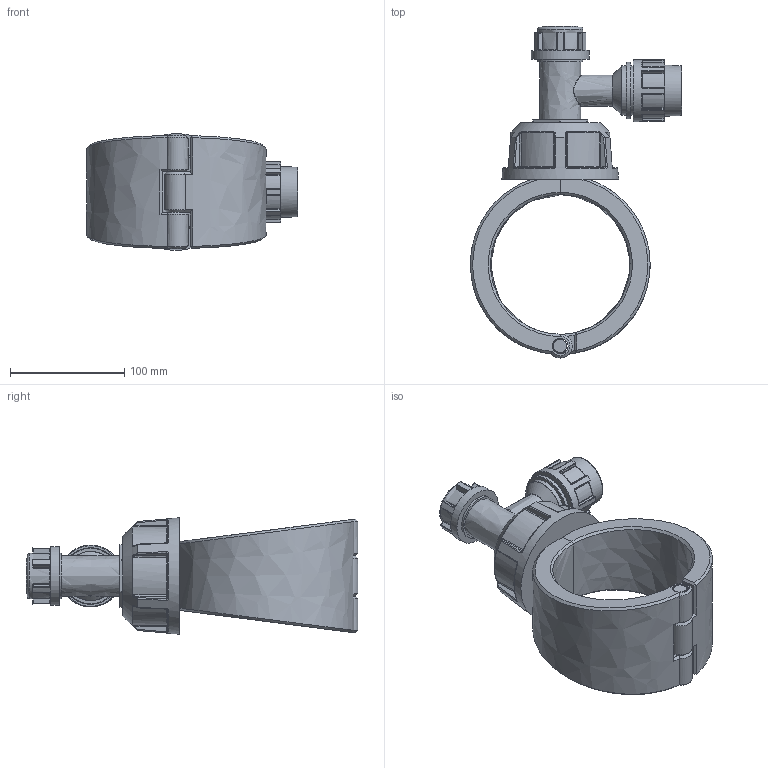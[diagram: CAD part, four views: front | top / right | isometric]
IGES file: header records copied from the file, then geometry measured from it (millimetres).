
Global section: file name: 163100125025_1631061250250A; native system: Autodesk Inventor 2019; preprocessor: unknown; author: comp2; date: 20220203.115757; units: millimetre
Bounding box: 184.5 x 290 x 101.87 mm (x, y, z)
Volume: 1116568 mm3; surface area: 154167 mm2
Topology: 4 solids, 4 shells, 519 faces, 1253 edges, 754 vertices
Faces by surface type: bspline 519
